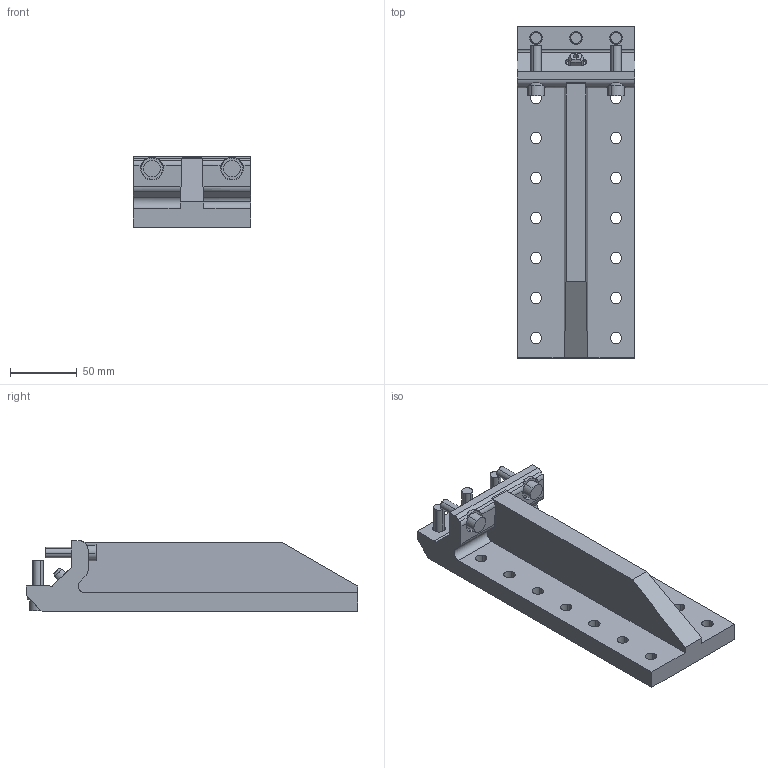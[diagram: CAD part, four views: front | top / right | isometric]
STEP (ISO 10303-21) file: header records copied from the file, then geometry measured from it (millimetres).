
FILE_DESCRIPTION(('STEP AP214'),'1');
FILE_NAME('EGT234_1_1725995_SEITENANB_RIP_IN_SW50.CATPart.stp','2015-09-14T13:14:46',('3D-Tool'),(' '),'Spatial InterOp 3D',' ',' ');
FILE_SCHEMA(('automotive_design'));
Length unit declared in the file: millimetre
Products named in the file (7): EGT234_1_1725995_SEITENANB_RIP_IN_SW50|EGT234_1_SEITENANB_RIP_IN_SW50|Bohrbearbeitung; EGT234_1_1725995_SEITENANB_RIP_IN_SW50|Schraube_M8x30.1|Solid.24; EGT234_1_1725995_SEITENANB_RIP_IN_SW50|Schraube_M8x30.2|Solid.25; EGT234_1_1725995_SEITENANB_RIP_IN_SW50|Schraube_M8x30.3|Solid.26; EGT234_1_1725995_SEITENANB_RIP_IN_SW50|Schraube_M8x30.4|Solid.27; EGT234_1_1725995_SEITENANB_RIP_IN_SW50|Schraube_M8x30.5|Solid.28; EGT234_1_1725995_SEITENANB_RIP_IN_SW50|EGT_212|Solid.34
Bounding box: 88 x 249 x 53 mm (x, y, z)
Volume: 465043.2 mm3; surface area: 86936.5 mm2
Topology: 7 solids, 7 shells, 251 faces, 674 edges, 445 vertices
Faces by surface type: cylinder 187, plane 58, cone 6
Entity records: 10481 total; most frequent: CARTESIAN_POINT 1697, DIRECTION 1494, ORIENTED_EDGE 1340, EDGE_CURVE 670, AXIS2_PLACEMENT_3D 612, VERTEX_POINT 445, CIRCLE 354, EDGE_LOOP 303
